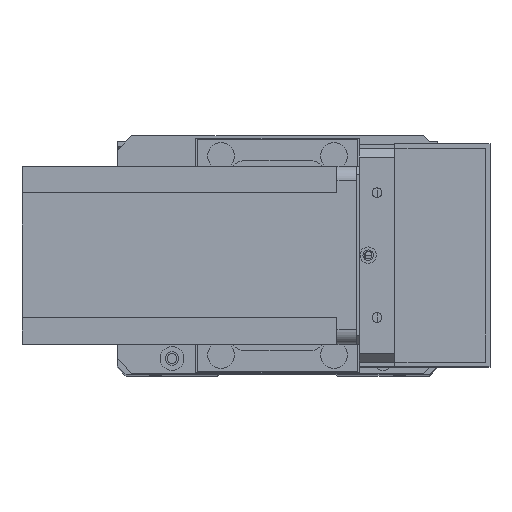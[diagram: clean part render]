
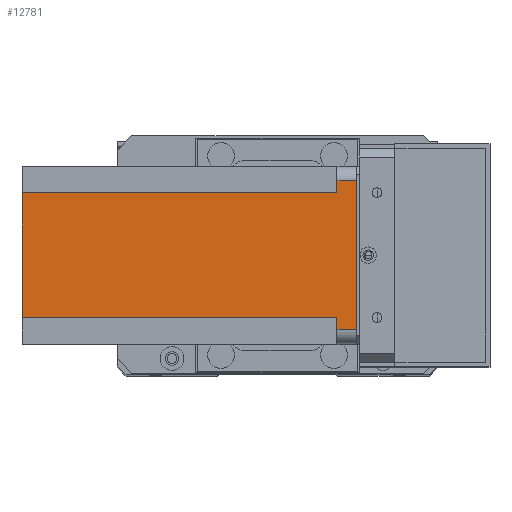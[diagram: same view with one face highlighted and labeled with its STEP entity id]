
A CAD part, top view. The second image highlights one B-rep face of the part: STEP entity #12781.
In plain terms, the highlighted planar face has unit normal (0, 0, 1) as drawn and (1, 0, 0) by its records, which use the part's own axes.
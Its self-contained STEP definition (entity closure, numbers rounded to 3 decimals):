
#171 = LINE ( 'NONE', #14920, #27329 ) ;
#1382 = VERTEX_POINT ( 'NONE', #3004 ) ;
#1832 = VECTOR ( 'NONE', #22421, 1000. ) ;
#2032 = EDGE_CURVE ( 'NONE', #8593, #1382, #15342, .T. ) ;
#2057 = PLANE ( 'NONE',  #11042 ) ;
#2208 = CARTESIAN_POINT ( 'NONE',  ( 60., 60., -6.5 ) ) ;
#2509 = LINE ( 'NONE', #15862, #1832 ) ;
#2613 = EDGE_CURVE ( 'NONE', #8593, #8640, #6707, .T. ) ;
#2695 = EDGE_CURVE ( 'NONE', #5445, #8640, #171, .T. ) ;
#2886 = ORIENTED_EDGE ( 'NONE', *, *, #2695, .F. ) ;
#2981 = DIRECTION ( 'NONE',  ( 0., 0., -1. ) ) ;
#3004 = CARTESIAN_POINT ( 'NONE',  ( 60., 51., -6.5 ) ) ;
#3425 = CARTESIAN_POINT ( 'NONE',  ( 60., 9., -6.5 ) ) ;
#4672 = VERTEX_POINT ( 'NONE', #3425 ) ;
#5293 = ORIENTED_EDGE ( 'NONE', *, *, #27576, .F. ) ;
#5445 = VERTEX_POINT ( 'NONE', #28232 ) ;
#5903 = LINE ( 'NONE', #16150, #16898 ) ;
#6500 = EDGE_CURVE ( 'NONE', #6643, #4672, #21795, .T. ) ;
#6643 = VERTEX_POINT ( 'NONE', #16717 ) ;
#6707 = LINE ( 'NONE', #12435, #23573 ) ;
#7975 = FACE_OUTER_BOUND ( 'NONE', #10657, .T. ) ;
#8593 = VERTEX_POINT ( 'NONE', #20033 ) ;
#8640 = VERTEX_POINT ( 'NONE', #11409 ) ;
#9573 = ORIENTED_EDGE ( 'NONE', *, *, #6500, .F. ) ;
#9750 = VECTOR ( 'NONE', #17786, 1000. ) ;
#10025 = EDGE_CURVE ( 'NONE', #6643, #13645, #27284, .T. ) ;
#10118 = EDGE_CURVE ( 'NONE', #4672, #26926, #2509, .T. ) ;
#10657 = EDGE_LOOP ( 'NONE', ( #12476, #17236, #2886, #12348, #17690, #9573, #19888, #5293 ) ) ;
#11042 = AXIS2_PLACEMENT_3D ( 'NONE', #21868, #26281, #13125 ) ;
#11409 = CARTESIAN_POINT ( 'NONE',  ( 60., 55., 0. ) ) ;
#12348 = ORIENTED_EDGE ( 'NONE', *, *, #24062, .T. ) ;
#12435 = CARTESIAN_POINT ( 'NONE',  ( 60., 55., -112.5 ) ) ;
#12476 = ORIENTED_EDGE ( 'NONE', *, *, #2032, .F. ) ;
#12781 = ADVANCED_FACE ( 'NONE', ( #7975 ), #2057, .T. ) ;
#13125 = DIRECTION ( 'NONE',  ( 0., 1., 0. ) ) ;
#13645 = VERTEX_POINT ( 'NONE', #19283 ) ;
#14920 = CARTESIAN_POINT ( 'NONE',  ( 60., 0., 0. ) ) ;
#14989 = LINE ( 'NONE', #19627, #25994 ) ;
#15342 = LINE ( 'NONE', #2208, #26351 ) ;
#15488 = DIRECTION ( 'NONE',  ( 0., -1., 0. ) ) ;
#15565 = CARTESIAN_POINT ( 'NONE',  ( 60., 0., -112.5 ) ) ;
#15862 = CARTESIAN_POINT ( 'NONE',  ( 60., 0., -6.5 ) ) ;
#15937 = VECTOR ( 'NONE', #20583, 1000. ) ;
#16150 = CARTESIAN_POINT ( 'NONE',  ( 60., 51., -112.5 ) ) ;
#16717 = CARTESIAN_POINT ( 'NONE',  ( 60., 9., -112.5 ) ) ;
#16898 = VECTOR ( 'NONE', #2981, 1000. ) ;
#17023 = DIRECTION ( 'NONE',  ( 0., 1., 0. ) ) ;
#17236 = ORIENTED_EDGE ( 'NONE', *, *, #2613, .T. ) ;
#17690 = ORIENTED_EDGE ( 'NONE', *, *, #10118, .F. ) ;
#17786 = DIRECTION ( 'NONE',  ( 0., 1., 0. ) ) ;
#18285 = CARTESIAN_POINT ( 'NONE',  ( 60., 5., -6.5 ) ) ;
#18344 = CARTESIAN_POINT ( 'NONE',  ( 60., 9., -112.5 ) ) ;
#19283 = CARTESIAN_POINT ( 'NONE',  ( 60., 51., -112.5 ) ) ;
#19627 = CARTESIAN_POINT ( 'NONE',  ( 60., 5., -112.5 ) ) ;
#19888 = ORIENTED_EDGE ( 'NONE', *, *, #10025, .T. ) ;
#20033 = CARTESIAN_POINT ( 'NONE',  ( 60., 55., -6.5 ) ) ;
#20583 = DIRECTION ( 'NONE',  ( 0., 0., 1. ) ) ;
#21795 = LINE ( 'NONE', #18344, #15937 ) ;
#21847 = DIRECTION ( 'NONE',  ( 0., 0., -1. ) ) ;
#21868 = CARTESIAN_POINT ( 'NONE',  ( 60., 0., -112.5 ) ) ;
#22421 = DIRECTION ( 'NONE',  ( 0., -1., 0. ) ) ;
#23573 = VECTOR ( 'NONE', #27785, 1000. ) ;
#24062 = EDGE_CURVE ( 'NONE', #5445, #26926, #14989, .T. ) ;
#25994 = VECTOR ( 'NONE', #21847, 1000. ) ;
#26281 = DIRECTION ( 'NONE',  ( 1., 0., 0. ) ) ;
#26351 = VECTOR ( 'NONE', #15488, 1000. ) ;
#26926 = VERTEX_POINT ( 'NONE', #18285 ) ;
#27284 = LINE ( 'NONE', #15565, #9750 ) ;
#27329 = VECTOR ( 'NONE', #17023, 1000. ) ;
#27576 = EDGE_CURVE ( 'NONE', #1382, #13645, #5903, .T. ) ;
#27785 = DIRECTION ( 'NONE',  ( 0., 0., 1. ) ) ;
#28232 = CARTESIAN_POINT ( 'NONE',  ( 60., 5., 0. ) ) ;
